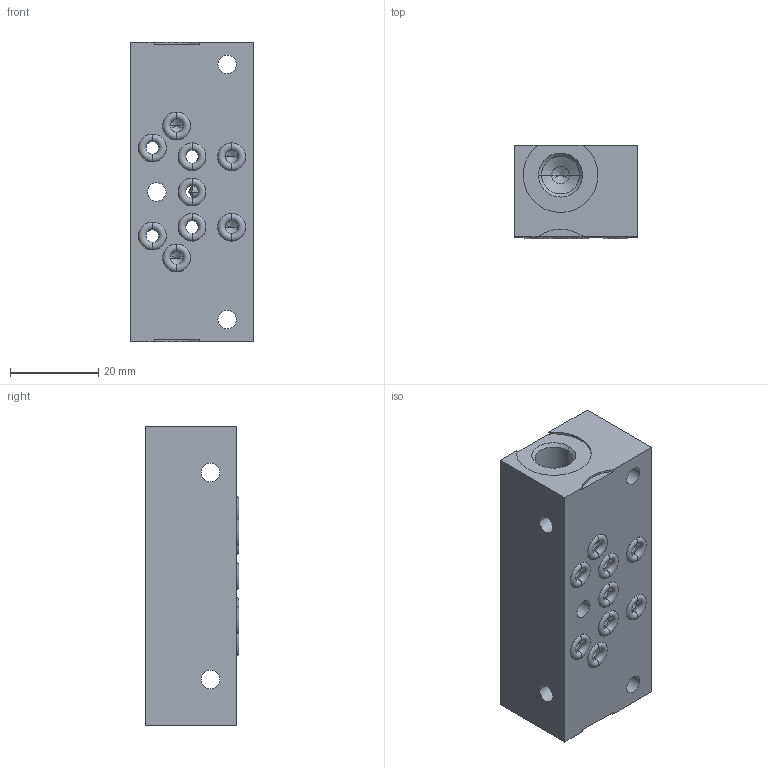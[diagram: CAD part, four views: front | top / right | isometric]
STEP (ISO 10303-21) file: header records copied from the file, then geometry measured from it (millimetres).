
FILE_DESCRIPTION((''),'2;1');
FILE_NAME('0641712_SW0001','2025-07-31T15:43:31',('lpini'),(''),'CREO PARAMETRIC BY PTC INC, 2023374','CREO PARAMETRIC BY PTC INC, 2023374','');
FILE_SCHEMA(('CONFIG_CONTROL_DESIGN'));
Length unit declared in the file: millimetre
Products named in the file (1): 0641712_SW0001
Bounding box: 28 x 21.23 x 68 mm (x, y, z)
Volume: 33469.9 mm3; surface area: 13185.7 mm2
Topology: 1 solids, 1 shells, 184 faces, 494 edges, 307 vertices
Faces by surface type: cylinder 108, cone 36, plane 22, torus 18
Entity records: 6491 total; most frequent: CARTESIAN_POINT 1696, DIRECTION 1072, ORIENTED_EDGE 952, EDGE_CURVE 476, AXIS2_PLACEMENT_3D 448, VERTEX_POINT 307, CIRCLE 264, EDGE_LOOP 237
